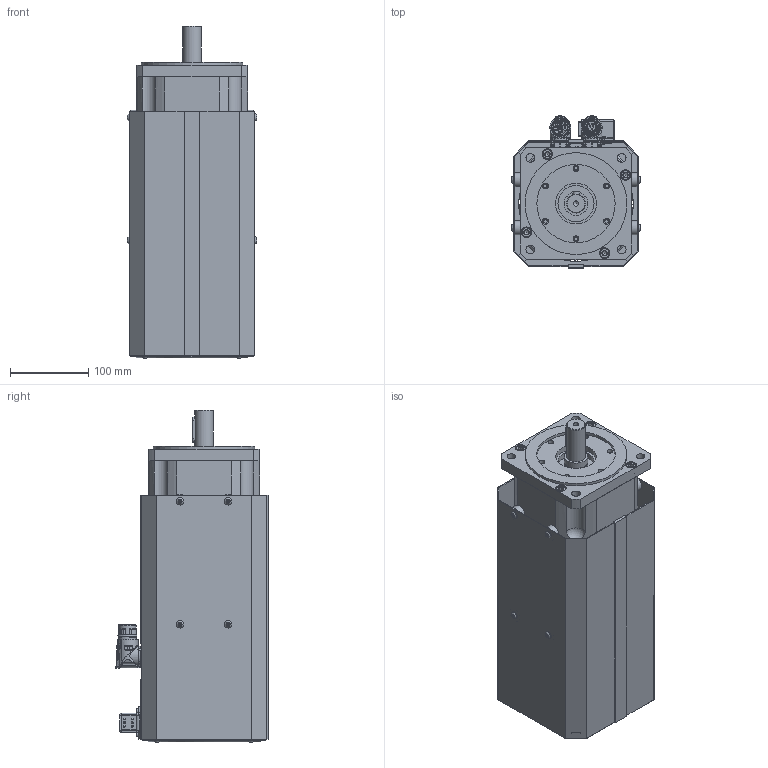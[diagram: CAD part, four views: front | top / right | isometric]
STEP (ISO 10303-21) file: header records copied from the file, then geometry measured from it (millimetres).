
FILE_DESCRIPTION(/* description */ (''),/* implementation_level */ '2;1');
FILE_NAME(/* name */ 'C:\Users\Public\Documents\Autodesk\Inventor LT 2014\Workspace\Motori Sito WEB\TG_5\DSF5_5\STEP_DSF5_5x\DSF5_52_x197.stp',/* time_stamp */ '2021-04-07T14:55:26+02:00',/* author */ ('marcor'),/* organization */ (''),/* preprocessor_version */ 'ST-DEVELOPER v15.2',/* originating_system */ 'Autodesk Inventor LT ',/* authorisation */ '');
FILE_SCHEMA (('AUTOMOTIVE_DESIGN { 1 0 10303 214 3 1 1 }'));
Products named in the file (1): DSF5_52_x197
Bounding box: 165.9 x 194.2 x 423.7 mm (x, y, z)
Volume: 5612198.4 mm3; surface area: 792857.6 mm2
Topology: 26 solids, 45 shells, 2123 faces, 5310 edges, 3483 vertices
Faces by surface type: plane 804, cylinder 600, cone 400, bspline 167, torus 104, sphere 48
Full cylindrical faces by diameter (mm): 1.2 x12, 2.013 x8, 2.2 x4, 2.224 x8, 2.233 x6, 2.4 x6, 2.5 x8, 2.88 x8, 3 x4, 3.26 x8, 3.5 x10, 4 x4, 4.134 x8, 4.5 x16, 4.8 x8, 4.917 x4, 5 x8, 5.5 x13, 5.9 x2, 6 x4, 6.5 x12, 6.647 x9, 7.5 x10, 8 x8, 8.5 x8, 10 x4, 11 x8, 12 x1, 13 x8, 13.5 x8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
Entity records: 71610 total; most frequent: CARTESIAN_POINT 23504, ORIENTED_EDGE 9384, DIRECTION 9137, EDGE_CURVE 4650, AXIS2_PLACEMENT_3D 3698, VERTEX_POINT 3291, EDGE_LOOP 2901, ADVANCED_FACE 2123
